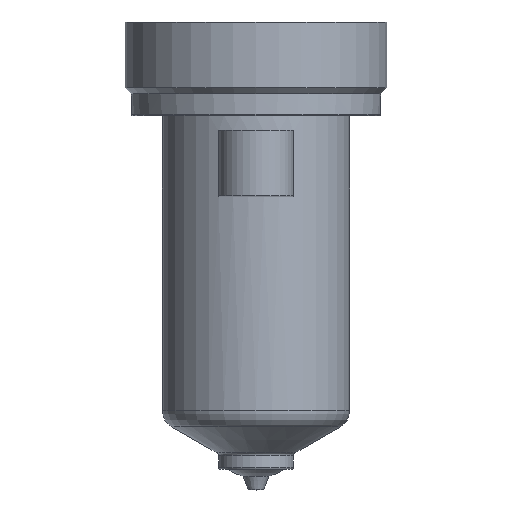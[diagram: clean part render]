
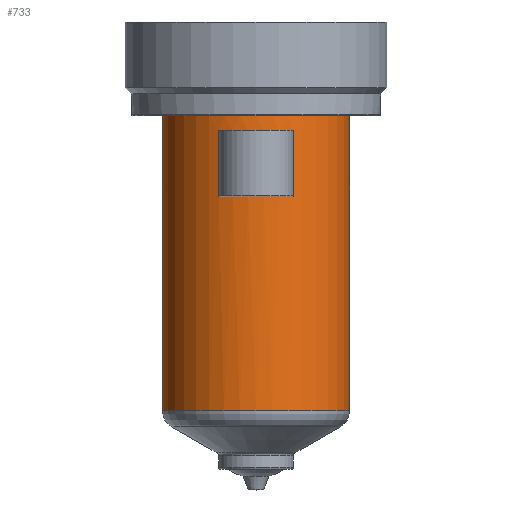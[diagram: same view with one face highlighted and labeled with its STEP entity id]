
A CAD part, top view. The second image highlights one B-rep face of the part: STEP entity #733.
In plain terms, the highlighted cylindrical face has radius 15 mm (diameter 30 mm), a partial arc.
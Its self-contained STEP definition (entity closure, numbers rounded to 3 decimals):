
#161=DIRECTION('',(0.,-1.,0.));
#162=VECTOR('',#161,47.283);
#163=CARTESIAN_POINT('',(15.,0.,0.));
#164=LINE('',#163,#162);
#165=CARTESIAN_POINT('',(0.,-47.283,0.));
#166=DIRECTION('',(0.,1.,0.));
#167=DIRECTION('',(-1.,0.,0.));
#168=AXIS2_PLACEMENT_3D('',#165,#166,#167);
#170=DIRECTION('',(0.,1.,0.));
#171=VECTOR('',#170,47.283);
#172=CARTESIAN_POINT('',(-15.,-47.283,0.));
#173=LINE('',#172,#171);
#174=CARTESIAN_POINT('',(0.,0.,0.));
#175=DIRECTION('',(0.,1.,0.));
#176=DIRECTION('',(-1.,0.,0.));
#177=AXIS2_PLACEMENT_3D('',#174,#175,#176);
#323=DIRECTION('',(0.,-1.,0.));
#324=VECTOR('',#323,10.5);
#325=CARTESIAN_POINT('',(-6.,-2.5,13.748));
#326=LINE('',#325,#324);
#331=CARTESIAN_POINT('',(0.,-13.,0.));
#332=DIRECTION('',(0.,1.,0.));
#333=DIRECTION('',(-0.4,0.,0.917));
#334=AXIS2_PLACEMENT_3D('',#331,#332,#333);
#366=CARTESIAN_POINT('',(0.,-2.5,0.));
#367=DIRECTION('',(0.,-1.,0.));
#368=DIRECTION('',(0.4,0.,0.917));
#369=AXIS2_PLACEMENT_3D('',#366,#367,#368);
#371=DIRECTION('',(0.,-1.,0.));
#372=VECTOR('',#371,10.5);
#373=CARTESIAN_POINT('',(6.,-2.5,13.748));
#374=LINE('',#373,#372);
#458=CARTESIAN_POINT('',(-15.,0.,0.));
#459=CARTESIAN_POINT('',(15.,0.,0.));
#460=VERTEX_POINT('',#458);
#461=VERTEX_POINT('',#459);
#470=CARTESIAN_POINT('',(6.,-2.5,13.748));
#471=VERTEX_POINT('',#470);
#472=CARTESIAN_POINT('',(-6.,-2.5,13.748));
#473=VERTEX_POINT('',#472);
#482=CARTESIAN_POINT('',(15.,-47.283,0.));
#483=VERTEX_POINT('',#482);
#492=CARTESIAN_POINT('',(-15.,-47.283,0.));
#493=VERTEX_POINT('',#492);
#510=CARTESIAN_POINT('',(-6.,-13.,13.748));
#511=CARTESIAN_POINT('',(6.,-13.,13.748));
#512=VERTEX_POINT('',#510);
#513=VERTEX_POINT('',#511);
#711=CARTESIAN_POINT('',(0.,16.4,0.));
#712=DIRECTION('',(0.,-1.,0.));
#713=DIRECTION('',(-1.,0.,0.));
#714=AXIS2_PLACEMENT_3D('',#711,#712,#713);
#715=CYLINDRICAL_SURFACE('',#714,15.);
#716=ORIENTED_EDGE('',*,*,#705,.T.);
#718=ORIENTED_EDGE('',*,*,#717,.F.);
#719=ORIENTED_EDGE('',*,*,#701,.T.);
#720=ORIENTED_EDGE('',*,*,#691,.T.);
#721=EDGE_LOOP('',(#716,#718,#719,#720));
#722=FACE_OUTER_BOUND('',#721,.F.);
#724=ORIENTED_EDGE('',*,*,#723,.T.);
#726=ORIENTED_EDGE('',*,*,#725,.T.);
#728=ORIENTED_EDGE('',*,*,#727,.F.);
#730=ORIENTED_EDGE('',*,*,#729,.T.);
#731=EDGE_LOOP('',(#724,#726,#728,#730));
#732=FACE_BOUND('',#731,.F.);
#733=ADVANCED_FACE('',(#722,#732),#715,.T.);
#169=CIRCLE('',#168,15.);
#178=CIRCLE('',#177,15.);
#335=CIRCLE('',#334,15.);
#370=CIRCLE('',#369,15.);
#691=EDGE_CURVE('',#460,#461,#178,.T.);
#701=EDGE_CURVE('',#493,#460,#173,.T.);
#705=EDGE_CURVE('',#461,#483,#164,.T.);
#717=EDGE_CURVE('',#493,#483,#169,.T.);
#723=EDGE_CURVE('',#473,#512,#326,.T.);
#725=EDGE_CURVE('',#512,#513,#335,.T.);
#727=EDGE_CURVE('',#471,#513,#374,.T.);
#729=EDGE_CURVE('',#471,#473,#370,.T.);
